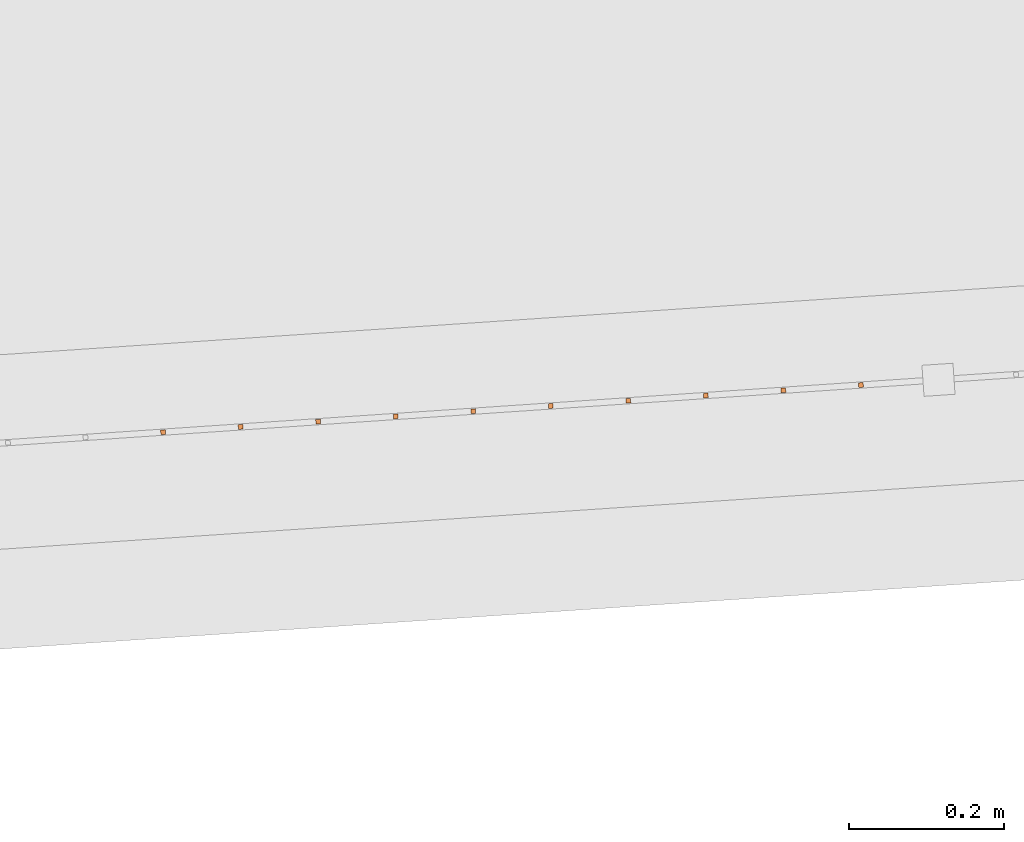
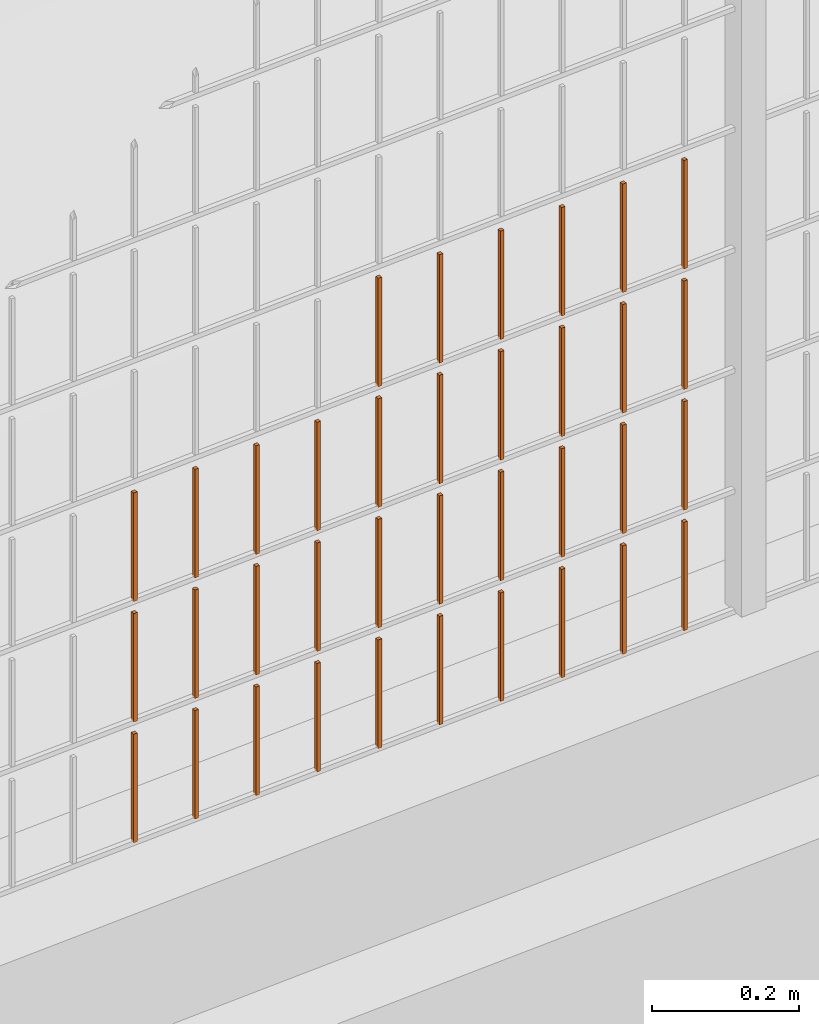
# One storey, part 151 of 1809: 36 proxies, 1 element without a shape of its own.
"""IFC2X3 building model written with IfcOpenShell, lengths in millimetres."""

import ifcopenshell
import ifcopenshell.guid

model = None  # the IFC model being written
_history = None  # IfcOwnerHistory: only IFC2X3 demands one
_inside = {}  # id of a spatial element -> (the spatial element, [elements in it])
_under = {}  # id of a project, library or spatial element -> (it, [spatial elements below it])
_declared = {}  # id of a project -> (the project, [libraries it declares])
_typed = {}  # id of a type object -> (the type object, [elements of that type])
_made_of = {}  # id of a material, layer set ... -> (it, [elements and type objects made of it])


def new_model(schema):
    """Start an empty IFC model of exactly this schema.

    Asked for "IFC4X3", IfcOpenShell would pick the latest addendum, in which some entities
    have other attributes; the version numbers below select the first issue.
    IFC2X3 requires an IfcOwnerHistory on every rooted entity: one is made here for all.
    """
    global model, _history
    if schema == "IFC4X3":
        model = ifcopenshell.file(schema_version=(4, 3, 0, 0))
    else:
        model = ifcopenshell.file(schema=schema)
    _inside.clear()
    _under.clear()
    _declared.clear()
    _typed.clear()
    _made_of.clear()
    _history = None
    if model.schema == "IFC2X3":
        org = make("IfcOrganization", Name="unknown")
        user = make(
            "IfcPersonAndOrganization",
            ThePerson=make("IfcPerson", FamilyName="unknown"),
            TheOrganization=org,
        )
        app = make(
            "IfcApplication",
            ApplicationDeveloper=org,
            Version="unknown",
            ApplicationFullName="unknown",
            ApplicationIdentifier="unknown",
        )
        _history = make(
            "IfcOwnerHistory",
            OwningUser=user,
            OwningApplication=app,
            ChangeAction="ADDED",
            CreationDate=0,
        )
    return model


def make(cls, **values):
    """One entity of the class cls with the attributes given. An attribute that is None is left unset."""
    return model.create_entity(
        cls, **{name: value for name, value in values.items() if value is not None}
    )


def entity(cls, *values):
    """Any entity or typed value of the class cls, its attributes in the order of the schema. None: left unset."""
    e = model.create_entity(cls)
    for i, value in enumerate(values):
        if value is not None:
            e[i] = value
    return e


def rooted(cls, **values):
    """An entity with a GlobalId (a new one), such as an element, a storey or a relation."""
    return make(cls, GlobalId=ifcopenshell.guid.new(), OwnerHistory=_history, **values)


def si_unit(unit_type, name, prefix=None):
    """IfcSIUnit, for example si_unit("LENGTHUNIT", "METRE", prefix="MILLI")."""
    return make("IfcSIUnit", UnitType=unit_type, Prefix=prefix, Name=name)


def converted_unit(unit_type, name, factor, base, dimensions=None, offset=None):
    """IfcConversionBasedUnit, such as the inch: factor (a typed value) times the base unit."""
    return make(
        "IfcConversionBasedUnit"
        if offset is None
        else "IfcConversionBasedUnitWithOffset",
        ConversionOffset=offset,
        Dimensions=None
        if dimensions is None
        else entity("IfcDimensionalExponents", *dimensions),
        UnitType=unit_type,
        Name=name,
        ConversionFactor=make(
            "IfcMeasureWithUnit", ValueComponent=factor, UnitComponent=base
        ),
    )


def derived_unit(unit_type, elements):
    """IfcDerivedUnit: a product of units, each with its exponent."""
    return make(
        "IfcDerivedUnit",
        Elements=[
            make("IfcDerivedUnitElement", Unit=unit, Exponent=power)
            for unit, power in elements
        ],
        UnitType=unit_type,
    )


def money_unit(currency):
    """IfcMonetaryUnit."""
    return make("IfcMonetaryUnit", Currency=currency)


def assignment(units):
    """IfcUnitAssignment: the units of a project."""
    return None if units is None else make("IfcUnitAssignment", Units=units)


def point(xyz):
    """IfcCartesianPoint."""
    return None if xyz is None else make("IfcCartesianPoint", Coordinates=xyz)


def direction(xyz):
    """IfcDirection."""
    return None if xyz is None else make("IfcDirection", DirectionRatios=xyz)


def frame(location, z_axis=None, x_axis=None):
    """IfcAxis2Placement3D, a coordinate frame: its origin and axes. An axis left out is left unset."""
    return make(
        "IfcAxis2Placement3D",
        Location=point(location),
        Axis=direction(z_axis),
        RefDirection=direction(x_axis),
    )


def origin_with_axes():
    """The frame at (0, 0, 0) with the z axis (0, 0, 1) and the x axis (1, 0, 0) written out."""
    return frame((0.0, 0.0, 0.0), z_axis=(0.0, 0.0, 1.0), x_axis=(1.0, 0.0, 0.0))


def place(relative_to, where):
    """IfcLocalPlacement: puts the frame where relative to a parent placement (None: the world)."""
    return make(
        "IfcLocalPlacement", PlacementRelTo=relative_to, RelativePlacement=where
    )


def context(
    kind, dimensions, precision=None, world=None, true_north=None, identifier=None
):
    """IfcGeometricRepresentationContext, for example the 3D "Model" context."""
    return make(
        "IfcGeometricRepresentationContext",
        ContextIdentifier=identifier,
        ContextType=kind,
        CoordinateSpaceDimension=dimensions,
        Precision=precision,
        WorldCoordinateSystem=world,
        TrueNorth=true_north,
    )


def subcontext(parent, identifier, kind, view, scale=None):
    """IfcGeometricRepresentationSubContext, for example "Body" below "Model"."""
    return make(
        "IfcGeometricRepresentationSubContext",
        ContextIdentifier=identifier,
        ContextType=kind,
        ParentContext=parent,
        TargetScale=scale,
        TargetView=view,
    )


def project(units=None, contexts=None):
    """IfcProject with its units and contexts."""
    return rooted(
        "IfcProject",
        Name="project",
        RepresentationContexts=contexts,
        UnitsInContext=assignment(units),
    )


def spatial(cls, under=None, at=None, **own):
    """A site, building, storey or space (cls), placed at a placement, below another one or the project."""
    s = rooted(cls, ObjectPlacement=at, **own)
    if under is not None:
        _under.setdefault(under.id(), (under, []))[1].append(s)
    return s


def faces_of(points, faces, orient=None, outer=None):
    """IfcFace entities. A face is a list of loops; a loop is a list of indices into points, from 0.

    orient and outer hold one flag for each loop. By default every Orientation is true, the
    first loop of a face is its IfcFaceOuterBound and the others are IfcFaceBound.
    """
    made = []
    for i, loops in enumerate(faces):
        bounds = []
        for j, loop in enumerate(loops):
            is_outer = j == 0 if outer is None else outer[i][j]
            bounds.append(
                make(
                    "IfcFaceOuterBound" if is_outer else "IfcFaceBound",
                    Bound=make("IfcPolyLoop", Polygon=[points[k] for k in loop]),
                    Orientation=True if orient is None else orient[i][j],
                )
            )
        made.append(make("IfcFace", Bounds=bounds))
    return made


def faceted_brep(points, faces, orient=None, outer=None, voids=None):
    """IfcFacetedBrep: a solid bounded by flat faces; with voids (closed shells), ...WithVoids."""
    shared = [point(p) for p in points]
    hull = make("IfcClosedShell", CfsFaces=faces_of(shared, faces, orient, outer))
    if voids is None:
        return make("IfcFacetedBrep", Outer=hull)
    return make(
        "IfcFacetedBrepWithVoids",
        Outer=hull,
        Voids=[
            make(cls, CfsFaces=faces_of(shared, fs, o, b)) for cls, fs, o, b in voids
        ],
    )


def shape(context_of_items, identifier, shape_type, items):
    """IfcShapeRepresentation: the items that make up one representation, for example the "Body"."""
    return make(
        "IfcShapeRepresentation",
        ContextOfItems=context_of_items,
        RepresentationIdentifier=identifier,
        RepresentationType=shape_type,
        Items=items,
    )


def source(mapping_origin, context_of_items, identifier, shape_type, items):
    """IfcRepresentationMap: a shape defined once, which mapped items show again and again."""
    return make(
        "IfcRepresentationMap",
        MappingOrigin=mapping_origin,
        MappedRepresentation=shape(context_of_items, identifier, shape_type, items),
    )


def transform(
    local_origin,
    x_axis=None,
    y_axis=None,
    z_axis=None,
    scale=None,
    scale2=None,
    scale3=None,
    uniform=True,
):
    """IfcCartesianTransformationOperator3D, or its non-uniform kind. x_axis, y_axis, z_axis: its Axis1, 2, 3."""
    if uniform:
        return make(
            "IfcCartesianTransformationOperator3D",
            Axis1=direction(x_axis),
            Axis2=direction(y_axis),
            LocalOrigin=point(local_origin),
            Scale=scale,
            Axis3=direction(z_axis),
        )
    return make(
        "IfcCartesianTransformationOperator3DnonUniform",
        Axis1=direction(x_axis),
        Axis2=direction(y_axis),
        LocalOrigin=point(local_origin),
        Scale=scale,
        Axis3=direction(z_axis),
        Scale2=scale2,
        Scale3=scale3,
    )


def mapped(mapping_source, mapping_target):
    """IfcMappedItem: shows the shape of a source again, moved by a transform."""
    return make(
        "IfcMappedItem", MappingSource=mapping_source, MappingTarget=mapping_target
    )


def material(Name=None, Category=None):
    """IfcMaterial."""
    return make("IfcMaterial", Name=Name, Category=Category)


def made_of(thing, what):
    """Note that an element or type object is made of a material, layer set ...; save() writes the relation."""
    if what is not None:
        _made_of.setdefault(what.id(), (what, []))[1].append(thing)
    return thing


def type_object(cls, material=None, **own):
    """A type object (cls), such as IfcWallType, which elements share."""
    return made_of(rooted(cls, **own), material)


def element(
    cls,
    number,
    at=None,
    inside=None,
    cuts=None,
    type_object=None,
    material=None,
    context=None,
    identifier="Body",
    shape_type=None,
    held_by="IfcProductDefinitionShape",
    body=None,
    shapes=None,
    **own,
):
    """One element of the class cls, such as IfcWall. Its Tag is "e" and its number.

    at: its placement. inside: the storey or other place that contains it. cuts: it is an
    opening in that element (IfcRelVoidsElement). A single representation is given by context,
    identifier, shape_type and body (its items); several are given by shapes. held_by: the class
    of the entity that holds the representations. save() writes the other relations.
    """
    e = rooted(cls, Tag="e%d" % number, ObjectPlacement=at, **own)
    if body is not None:
        shapes = [shape(context, identifier, shape_type, body)]
    if shapes is not None:
        e.Representation = make(held_by, Representations=shapes)
    if inside is not None:
        _inside.setdefault(inside.id(), (inside, []))[1].append(e)
    if cuts is not None:
        rooted(
            "IfcRelVoidsElement", RelatingBuildingElement=cuts, RelatedOpeningElement=e
        )
    if type_object is not None:
        _typed.setdefault(type_object.id(), (type_object, []))[1].append(e)
    return made_of(e, material)


def aggregate(whole, parts):
    """IfcRelAggregates: a whole, such as a stair, and the parts it consists of."""
    return rooted("IfcRelAggregates", RelatingObject=whole, RelatedObjects=parts)


def save(model, path):
    """Write the relations noted so far, then the file.

    IfcRelAggregates (storeys below a building ...), IfcRelContainedInSpatialStructure (elements
    in a storey), IfcRelDefinesByType, IfcRelAssociatesMaterial and IfcRelDeclares: one each for
    every whole, place, type object, material and project.
    """
    for whole, parts in _under.values():
        aggregate(whole, parts)
    for where, things in _inside.values():
        rooted(
            "IfcRelContainedInSpatialStructure",
            RelatedElements=things,
            RelatingStructure=where,
        )
    for kind, things in _typed.values():
        rooted("IfcRelDefinesByType", RelatedObjects=things, RelatingType=kind)
    for what, things in _made_of.values():
        rooted("IfcRelAssociatesMaterial", RelatedObjects=things, RelatingMaterial=what)
    for by, libraries in _declared.values():
        rooted("IfcRelDeclares", RelatingContext=by, RelatedDefinitions=libraries)
    model.write(path)


model = new_model("IFC2X3")

# Units and contexts
model_context = context("Model", 3, precision=0.01, world=origin_with_axes(), true_north=direction((0.0, 1.0)))
body_context = subcontext(model_context, "Body", "Model", "MODEL_VIEW")
ifc_project = project(units=[si_unit("LENGTHUNIT", "METRE", prefix="MILLI"), si_unit("AREAUNIT", "SQUARE_METRE"), si_unit("VOLUMEUNIT", "CUBIC_METRE"), converted_unit("PLANEANGLEUNIT", "DEGREE", entity("IfcPlaneAngleMeasure", 0.0174532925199), si_unit("PLANEANGLEUNIT", "RADIAN"), dimensions=[0, 0, 0, 0, 0, 0, 0]), si_unit("SOLIDANGLEUNIT", "STERADIAN"), money_unit("EUR"), converted_unit("TIMEUNIT", "Year", entity("IfcTimeMeasure", 31556926.0), si_unit("TIMEUNIT", "SECOND"), dimensions=[0, 0, 1, 0, 0, 0, 0]), si_unit("MASSUNIT", "GRAM", prefix="KILO"), si_unit("THERMODYNAMICTEMPERATUREUNIT", "DEGREE_CELSIUS"), si_unit("LUMINOUSINTENSITYUNIT", "LUMEN"), si_unit("ENERGYUNIT", "JOULE", prefix="MEGA"), derived_unit("THERMALCONDUCTANCEUNIT", [(si_unit("POWERUNIT", "WATT"), 1), (si_unit("LENGTHUNIT", "METRE"), -1), (si_unit("THERMODYNAMICTEMPERATUREUNIT", "KELVIN"), -1)]), derived_unit("SPECIFICHEATCAPACITYUNIT", [(si_unit("ENERGYUNIT", "JOULE"), 1), (si_unit("MASSUNIT", "GRAM", prefix="KILO"), -1), (si_unit("THERMODYNAMICTEMPERATUREUNIT", "KELVIN"), -1)]), derived_unit("MASSDENSITYUNIT", [(si_unit("MASSUNIT", "GRAM", prefix="KILO"), 1), (si_unit("VOLUMEUNIT", "CUBIC_METRE"), -1)])], contexts=[model_context])

# Site, building, storey
site_placement = place(None, origin_with_axes())
site = spatial("IfcSite", under=ifc_project, at=site_placement, Name="Politse- ja Piirivalveameti ning Päästeameti ühishoone", CompositionType="ELEMENT")
building_placement = place(site_placement, origin_with_axes())
building = spatial("IfcBuilding", under=site, at=building_placement, Name="Politse- ja Piirivalveameti ning Päästeameti ühishoone", CompositionType="ELEMENT")
storey_placement = place(building_placement, origin_with_axes())
storey = spatial("IfcBuildingStorey", under=building, at=storey_placement, Name="Esimene korrus", CompositionType="ELEMENT", Elevation=0.0)

# Proxies
building_element_proxy_type_1 = type_object("IfcBuildingElementProxyType", Name="Railing Type", PredefinedType="NOTDEFINED")
proxy_1_placement = place(storey_placement, frame((89252.001212, -29183.4766571, 203.661247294), z_axis=(0.0, 0.0, 1.0), x_axis=(1.0, 0.0, 0.0)))
proxy_1 = element("IfcBuildingElementProxy", 1, at=proxy_1_placement, inside=storey, type_object=building_element_proxy_type_1, Name="PIIRDEAED")
ifc_material = material(Name="ET-03_Raud")
building_element_proxy_type_2 = type_object("IfcBuildingElementProxyType", Name="IfcBuildingElementProxy", PredefinedType="NOTDEFINED")
shared_shape_1 = source(origin_with_axes(), body_context, "Body", "Brep", [
    faceted_brep([(3.0, 3.0, -0.000752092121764), (-3.0, 3.0, -0.000752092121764), (-3.0, 3.0, 179.99926046), (3.0, 3.0, 179.99926046), (3.0, -3.0, 0.000752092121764), (-3.0, -3.0, 0.000752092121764), (-3.0, -3.0, 180.000764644), (3.0, -3.0, 180.000764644)], [[[0, 1, 2, 3]], [[0, 4, 5, 1]], [[1, 5, 6, 2]], [[3, 2, 6, 7]], [[4, 0, 3, 7]], [[5, 4, 7, 6]]]),
])
proxy_2_placement = place(proxy_1_placement, frame((-82538.6113455, -22872.9464685, 206.495022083), z_axis=(0.0, 0.0, 1.0), x_axis=(1.0, 0.0, 0.0)))
proxy_2 = element("IfcBuildingElementProxy", 2, at=proxy_2_placement, type_object=building_element_proxy_type_2, material=ifc_material, Name="BALUSTER - 001", context=body_context, shape_type="MappedRepresentation", body=[
    mapped(shared_shape_1, transform((0.0, 0.0, 0.0), x_axis=(-0.0673926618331, 0.997726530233, 0.0), y_axis=(-0.997726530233, -0.0673926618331, 0.0), z_axis=(0.0, 0.0, 1.0))),
])
proxy_3_placement = place(proxy_1_placement, frame((-82438.8386924, -22866.2072023, 406.520091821), z_axis=(0.0, 0.0, 1.0), x_axis=(1.0, 0.0, 0.0)))
proxy_3 = element("IfcBuildingElementProxy", 3, at=proxy_3_placement, type_object=building_element_proxy_type_2, material=ifc_material, Name="BALUSTER - 001", context=body_context, shape_type="MappedRepresentation", body=[
    mapped(shared_shape_1, transform((0.0, 0.0, 0.0), x_axis=(-0.0673926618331, 0.997726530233, 0.0), y_axis=(-0.997726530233, -0.0673926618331, 0.0), z_axis=(0.0, 0.0, 1.0))),
])
proxy_4_placement = place(proxy_1_placement, frame((-82538.6113455, -22872.9464685, 606.495022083), z_axis=(0.0, 0.0, 1.0), x_axis=(1.0, 0.0, 0.0)))
proxy_4 = element("IfcBuildingElementProxy", 4, at=proxy_4_placement, type_object=building_element_proxy_type_2, material=ifc_material, Name="BALUSTER - 001", context=body_context, shape_type="MappedRepresentation", body=[
    mapped(shared_shape_1, transform((0.0, 0.0, 0.0), x_axis=(-0.0673926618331, 0.997726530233, 0.0), y_axis=(-0.997726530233, -0.0673926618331, 0.0), z_axis=(0.0, 0.0, 1.0))),
])
shared_shape_2 = source(origin_with_axes(), body_context, "Body", "Brep", [
    faceted_brep([(3.0, 3.0, -0.000752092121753), (-3.0, 3.0, -0.000752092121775), (-3.0, 3.0, 179.99926046), (3.0, 3.0, 179.99926046), (3.0, -3.0, 0.000752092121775), (-3.0, -3.0, 0.000752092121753), (-3.0, -3.0, 180.000764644), (3.0, -3.0, 180.000764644)], [[[0, 1, 2, 3]], [[0, 4, 5, 1]], [[1, 5, 6, 2]], [[3, 2, 6, 7]], [[4, 0, 3, 7]], [[5, 4, 7, 6]]]),
])
proxy_5_placement = place(proxy_1_placement, frame((-82937.7019576, -22899.9035332, 6.39474313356), z_axis=(0.0, 0.0, 1.0), x_axis=(1.0, 0.0, 0.0)))
proxy_5 = element("IfcBuildingElementProxy", 5, at=proxy_5_placement, type_object=building_element_proxy_type_2, material=ifc_material, Name="BALUSTER - 001", context=body_context, shape_type="MappedRepresentation", body=[
    mapped(shared_shape_2, transform((0.0, 0.0, 0.0), x_axis=(-0.0673926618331, 0.997726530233, 0.0), y_axis=(-0.997726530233, -0.0673926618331, 0.0), z_axis=(0.0, 0.0, 1.0))),
])
proxy_6_placement = place(proxy_1_placement, frame((-83037.4746106, -22906.6427994, 6.36967339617), z_axis=(0.0, 0.0, 1.0), x_axis=(1.0, 0.0, 0.0)))
proxy_6 = element("IfcBuildingElementProxy", 6, at=proxy_6_placement, type_object=building_element_proxy_type_2, material=ifc_material, Name="BALUSTER - 001", context=body_context, shape_type="MappedRepresentation", body=[
    mapped(shared_shape_2, transform((0.0, 0.0, 0.0), x_axis=(-0.0673926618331, 0.997726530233, 0.0), y_axis=(-0.997726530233, -0.0673926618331, 0.0), z_axis=(0.0, 0.0, 1.0))),
])
shared_shape_3 = source(origin_with_axes(), body_context, "Body", "Brep", [
    faceted_brep([(3.0, 3.0, -0.000752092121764), (-3.0, 3.0, -0.000752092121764), (-3.0, 3.0, 179.99926046), (3.0, 3.0, 179.99926046), (3.0, -3.0, 0.000752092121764), (-3.0, -3.0, 0.000752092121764), (-3.0, -3.0, 180.000764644), (3.0, -3.0, 180.000764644)], [[[0, 1, 2, 3]], [[0, 4, 5, 1]], [[1, 5, 6, 2]], [[3, 2, 6, 7]], [[4, 0, 3, 7]], [[5, 4, 7, 6]]]),
])
proxy_7_placement = place(proxy_1_placement, frame((-83137.2472636, -22913.3820656, 6.34460365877), z_axis=(0.0, 0.0, 1.0), x_axis=(1.0, 0.0, 0.0)))
proxy_7 = element("IfcBuildingElementProxy", 7, at=proxy_7_placement, type_object=building_element_proxy_type_2, material=ifc_material, Name="BALUSTER - 001", context=body_context, shape_type="MappedRepresentation", body=[
    mapped(shared_shape_3, transform((0.0, 0.0, 0.0), x_axis=(-0.0673926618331, 0.997726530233, 0.0), y_axis=(-0.997726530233, -0.0673926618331, 0.0), z_axis=(0.0, 0.0, 1.0))),
])
shared_shape_4 = source(origin_with_axes(), body_context, "Body", "Brep", [
    faceted_brep([(3.0, 3.0, -0.000752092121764), (-3.0, 3.0, -0.000752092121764), (-3.0, 3.0, 179.99926046), (3.0, 3.0, 179.99926046), (3.0, -3.0, 0.000752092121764), (-3.0, -3.0, 0.000752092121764), (-3.0, -3.0, 180.000764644), (3.0, -3.0, 180.000764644)], [[[0, 1, 2, 3]], [[0, 4, 5, 1]], [[1, 5, 6, 2]], [[3, 2, 6, 7]], [[4, 0, 3, 7]], [[5, 4, 7, 6]]]),
])
proxy_8_placement = place(proxy_1_placement, frame((-82638.3839985, -22879.6857347, 6.46995234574), z_axis=(0.0, 0.0, 1.0), x_axis=(1.0, 0.0, 0.0)))
proxy_8 = element("IfcBuildingElementProxy", 8, at=proxy_8_placement, type_object=building_element_proxy_type_2, material=ifc_material, Name="BALUSTER - 001", context=body_context, shape_type="MappedRepresentation", body=[
    mapped(shared_shape_4, transform((0.0, 0.0, 0.0), x_axis=(-0.0673926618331, 0.997726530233, 0.0), y_axis=(-0.997726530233, -0.0673926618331, 0.0), z_axis=(0.0, 0.0, 1.0))),
])
shared_shape_5 = source(origin_with_axes(), body_context, "Body", "Brep", [
    faceted_brep([(3.0, 3.0, -0.000752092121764), (-3.0, 3.0, -0.000752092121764), (-3.0, 3.0, 179.99926046), (3.0, 3.0, 179.99926046), (3.0, -3.0, 0.000752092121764), (-3.0, -3.0, 0.000752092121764), (-3.0, -3.0, 180.000764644), (3.0, -3.0, 180.000764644)], [[[0, 1, 2, 3]], [[0, 4, 5, 1]], [[1, 5, 6, 2]], [[3, 2, 6, 7]], [[4, 0, 3, 7]], [[5, 4, 7, 6]]]),
])
proxy_9_placement = place(proxy_1_placement, frame((-83137.2472636, -22913.3820656, 206.344603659), z_axis=(0.0, 0.0, 1.0), x_axis=(1.0, 0.0, 0.0)))
proxy_9 = element("IfcBuildingElementProxy", 9, at=proxy_9_placement, type_object=building_element_proxy_type_2, material=ifc_material, Name="BALUSTER - 001", context=body_context, shape_type="MappedRepresentation", body=[
    mapped(shared_shape_5, transform((0.0, 0.0, 0.0), x_axis=(-0.0673926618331, 0.997726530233, 0.0), y_axis=(-0.997726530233, -0.0673926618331, 0.0), z_axis=(0.0, 0.0, 1.0))),
])
proxy_10_placement = place(proxy_1_placement, frame((-83137.2472636, -22913.3820656, 406.344603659), z_axis=(0.0, 0.0, 1.0), x_axis=(1.0, 0.0, 0.0)))
proxy_10 = element("IfcBuildingElementProxy", 10, at=proxy_10_placement, type_object=building_element_proxy_type_2, material=ifc_material, Name="BALUSTER - 001", context=body_context, shape_type="MappedRepresentation", body=[
    mapped(shared_shape_5, transform((0.0, 0.0, 0.0), x_axis=(-0.0673926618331, 0.997726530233, 0.0), y_axis=(-0.997726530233, -0.0673926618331, 0.0), z_axis=(0.0, 0.0, 1.0))),
])
shared_shape_6 = source(origin_with_axes(), body_context, "Body", "Brep", [
    faceted_brep([(3.0, 3.0, -0.000752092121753), (-3.0, 3.0, -0.000752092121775), (-3.0, 3.0, 179.99926046), (3.0, 3.0, 179.99926046), (3.0, -3.0, 0.000752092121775), (-3.0, -3.0, 0.000752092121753), (-3.0, -3.0, 180.000764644), (3.0, -3.0, 180.000764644)], [[[0, 1, 2, 3]], [[0, 4, 5, 1]], [[1, 5, 6, 2]], [[3, 2, 6, 7]], [[4, 0, 3, 7]], [[5, 4, 7, 6]]]),
])
proxy_11_placement = place(proxy_1_placement, frame((-83037.4746106, -22906.6427994, 206.369673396), z_axis=(0.0, 0.0, 1.0), x_axis=(1.0, 0.0, 0.0)))
proxy_11 = element("IfcBuildingElementProxy", 11, at=proxy_11_placement, type_object=building_element_proxy_type_2, material=ifc_material, Name="BALUSTER - 001", context=body_context, shape_type="MappedRepresentation", body=[
    mapped(shared_shape_6, transform((0.0, 0.0, 0.0), x_axis=(-0.0673926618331, 0.997726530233, 0.0), y_axis=(-0.997726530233, -0.0673926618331, 0.0), z_axis=(0.0, 0.0, 1.0))),
])
shared_shape_7 = source(origin_with_axes(), body_context, "Body", "Brep", [
    faceted_brep([(3.0, 3.0, -0.000752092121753), (-3.0, 3.0, -0.000752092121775), (-3.0, 3.0, 179.99926046), (3.0, 3.0, 179.99926046), (3.0, -3.0, 0.000752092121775), (-3.0, -3.0, 0.000752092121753), (-3.0, -3.0, 180.000764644), (3.0, -3.0, 180.000764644)], [[[0, 1, 2, 3]], [[0, 4, 5, 1]], [[1, 5, 6, 2]], [[3, 2, 6, 7]], [[4, 0, 3, 7]], [[5, 4, 7, 6]]]),
])
proxy_12_placement = place(proxy_1_placement, frame((-82239.2933864, -22852.72867, 6.5702312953), z_axis=(0.0, 0.0, 1.0), x_axis=(1.0, 0.0, 0.0)))
proxy_12 = element("IfcBuildingElementProxy", 12, at=proxy_12_placement, type_object=building_element_proxy_type_2, material=ifc_material, Name="BALUSTER - 001", context=body_context, shape_type="MappedRepresentation", body=[
    mapped(shared_shape_7, transform((0.0, 0.0, 0.0), x_axis=(-0.0673926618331, 0.997726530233, 0.0), y_axis=(-0.997726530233, -0.0673926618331, 0.0), z_axis=(0.0, 0.0, 1.0))),
])
proxy_13_placement = place(proxy_1_placement, frame((-82837.9293045, -22893.1642671, 6.41981287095), z_axis=(0.0, 0.0, 1.0), x_axis=(1.0, 0.0, 0.0)))
proxy_13 = element("IfcBuildingElementProxy", 13, at=proxy_13_placement, type_object=building_element_proxy_type_2, material=ifc_material, Name="BALUSTER - 001", context=body_context, shape_type="MappedRepresentation", body=[
    mapped(shared_shape_7, transform((0.0, 0.0, 0.0), x_axis=(-0.0673926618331, 0.997726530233, 0.0), y_axis=(-0.997726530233, -0.0673926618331, 0.0), z_axis=(0.0, 0.0, 1.0))),
])
shared_shape_8 = source(origin_with_axes(), body_context, "Body", "Brep", [
    faceted_brep([(3.0, 3.0, -0.000752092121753), (-3.0, 3.0, -0.000752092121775), (-3.0, 3.0, 179.99926046), (3.0, 3.0, 179.99926046), (3.0, -3.0, 0.000752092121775), (-3.0, -3.0, 0.000752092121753), (-3.0, -3.0, 180.000764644), (3.0, -3.0, 180.000764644)], [[[0, 1, 2, 3]], [[0, 4, 5, 1]], [[1, 5, 6, 2]], [[3, 2, 6, 7]], [[4, 0, 3, 7]], [[5, 4, 7, 6]]]),
])
proxy_14_placement = place(proxy_1_placement, frame((-83037.4746106, -22906.6427994, 406.369673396), z_axis=(0.0, 0.0, 1.0), x_axis=(1.0, 0.0, 0.0)))
proxy_14 = element("IfcBuildingElementProxy", 14, at=proxy_14_placement, type_object=building_element_proxy_type_2, material=ifc_material, Name="BALUSTER - 001", context=body_context, shape_type="MappedRepresentation", body=[
    mapped(shared_shape_8, transform((0.0, 0.0, 0.0), x_axis=(-0.0673926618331, 0.997726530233, 0.0), y_axis=(-0.997726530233, -0.0673926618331, 0.0), z_axis=(0.0, 0.0, 1.0))),
])
shared_shape_9 = source(origin_with_axes(), body_context, "Body", "Brep", [
    faceted_brep([(3.0, 3.0, -0.000752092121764), (-3.0, 3.0, -0.000752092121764), (-3.0, 3.0, 179.99926046), (3.0, 3.0, 179.99926046), (3.0, -3.0, 0.000752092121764), (-3.0, -3.0, 0.000752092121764), (-3.0, -3.0, 180.000764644), (3.0, -3.0, 180.000764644)], [[[0, 1, 2, 3]], [[0, 4, 5, 1]], [[1, 5, 6, 2]], [[3, 2, 6, 7]], [[4, 0, 3, 7]], [[5, 4, 7, 6]]]),
])
proxy_15_placement = place(proxy_1_placement, frame((-82538.6113455, -22872.9464685, 406.495022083), z_axis=(0.0, 0.0, 1.0), x_axis=(1.0, 0.0, 0.0)))
proxy_15 = element("IfcBuildingElementProxy", 15, at=proxy_15_placement, type_object=building_element_proxy_type_2, material=ifc_material, Name="BALUSTER - 001", context=body_context, shape_type="MappedRepresentation", body=[
    mapped(shared_shape_9, transform((0.0, 0.0, 0.0), x_axis=(-0.0673926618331, 0.997726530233, 0.0), y_axis=(-0.997726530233, -0.0673926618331, 0.0), z_axis=(0.0, 0.0, 1.0))),
])
shared_shape_10 = source(origin_with_axes(), body_context, "Body", "Brep", [
    faceted_brep([(3.0, 3.0, -0.000752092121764), (-3.0, 3.0, -0.000752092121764), (-3.0, 3.0, 179.99926046), (3.0, 3.0, 179.99926046), (3.0, -3.0, 0.000752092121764), (-3.0, -3.0, 0.000752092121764), (-3.0, -3.0, 180.000764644), (3.0, -3.0, 180.000764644)], [[[0, 1, 2, 3]], [[0, 4, 5, 1]], [[1, 5, 6, 2]], [[3, 2, 6, 7]], [[4, 0, 3, 7]], [[5, 4, 7, 6]]]),
])
proxy_16_placement = place(proxy_1_placement, frame((-82339.0660394, -22859.4679361, 6.54516155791), z_axis=(0.0, 0.0, 1.0), x_axis=(1.0, 0.0, 0.0)))
proxy_16 = element("IfcBuildingElementProxy", 16, at=proxy_16_placement, type_object=building_element_proxy_type_2, material=ifc_material, Name="BALUSTER - 001", context=body_context, shape_type="MappedRepresentation", body=[
    mapped(shared_shape_10, transform((0.0, 0.0, 0.0), x_axis=(-0.0673926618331, 0.997726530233, 0.0), y_axis=(-0.997726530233, -0.0673926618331, 0.0), z_axis=(0.0, 0.0, 1.0))),
])
shared_shape_11 = source(origin_with_axes(), body_context, "Body", "Brep", [
    faceted_brep([(3.0, 3.0, -0.000752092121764), (-3.0, 3.0, -0.000752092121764), (-3.0, 3.0, 179.99926046), (3.0, 3.0, 179.99926046), (3.0, -3.0, 0.000752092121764), (-3.0, -3.0, 0.000752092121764), (-3.0, -3.0, 180.000764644), (3.0, -3.0, 180.000764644)], [[[0, 1, 2, 3]], [[0, 4, 5, 1]], [[1, 5, 6, 2]], [[3, 2, 6, 7]], [[4, 0, 3, 7]], [[5, 4, 7, 6]]]),
])
proxy_17_placement = place(proxy_1_placement, frame((-82438.8386924, -22866.2072023, 6.52009182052), z_axis=(0.0, 0.0, 1.0), x_axis=(1.0, 0.0, 0.0)))
proxy_17 = element("IfcBuildingElementProxy", 17, at=proxy_17_placement, type_object=building_element_proxy_type_2, material=ifc_material, Name="BALUSTER - 001", context=body_context, shape_type="MappedRepresentation", body=[
    mapped(shared_shape_11, transform((0.0, 0.0, 0.0), x_axis=(-0.0673926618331, 0.997726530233, 0.0), y_axis=(-0.997726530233, -0.0673926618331, 0.0), z_axis=(0.0, 0.0, 1.0))),
])
shared_shape_12 = source(origin_with_axes(), body_context, "Body", "Brep", [
    faceted_brep([(3.0, 3.0, -0.000752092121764), (-3.0, 3.0, -0.000752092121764), (-3.0, 3.0, 179.99926046), (3.0, 3.0, 179.99926046), (3.0, -3.0, 0.000752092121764), (-3.0, -3.0, 0.000752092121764), (-3.0, -3.0, 180.000764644), (3.0, -3.0, 180.000764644)], [[[0, 1, 2, 3]], [[0, 4, 5, 1]], [[1, 5, 6, 2]], [[3, 2, 6, 7]], [[4, 0, 3, 7]], [[5, 4, 7, 6]]]),
])
proxy_18_placement = place(proxy_1_placement, frame((-82339.0660394, -22859.4679361, 206.545161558), z_axis=(0.0, 0.0, 1.0), x_axis=(1.0, 0.0, 0.0)))
proxy_18 = element("IfcBuildingElementProxy", 18, at=proxy_18_placement, type_object=building_element_proxy_type_2, material=ifc_material, Name="BALUSTER - 001", context=body_context, shape_type="MappedRepresentation", body=[
    mapped(shared_shape_12, transform((0.0, 0.0, 0.0), x_axis=(-0.0673926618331, 0.997726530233, 0.0), y_axis=(-0.997726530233, -0.0673926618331, 0.0), z_axis=(0.0, 0.0, 1.0))),
])
shared_shape_13 = source(origin_with_axes(), body_context, "Body", "Brep", [
    faceted_brep([(3.0, 3.0, -0.000752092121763), (-3.0, 3.0, -0.000752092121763), (-3.0, 3.0, 179.99926046), (3.0, 3.0, 179.99926046), (3.0, -3.0, 0.000752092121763), (-3.0, -3.0, 0.000752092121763), (-3.0, -3.0, 180.000764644), (3.0, -3.0, 180.000764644)], [[[0, 1, 2, 3]], [[0, 4, 5, 1]], [[1, 5, 6, 2]], [[3, 2, 6, 7]], [[4, 0, 3, 7]], [[5, 4, 7, 6]]]),
])
proxy_19_placement = place(proxy_1_placement, frame((-82438.8386924, -22866.2072023, 206.520091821), z_axis=(0.0, 0.0, 1.0), x_axis=(1.0, 0.0, 0.0)))
proxy_19 = element("IfcBuildingElementProxy", 19, at=proxy_19_placement, type_object=building_element_proxy_type_2, material=ifc_material, Name="BALUSTER - 001", context=body_context, shape_type="MappedRepresentation", body=[
    mapped(shared_shape_13, transform((0.0, 0.0, 0.0), x_axis=(-0.0673926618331, 0.997726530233, 0.0), y_axis=(-0.997726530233, -0.0673926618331, 0.0), z_axis=(0.0, 0.0, 1.0))),
])
shared_shape_14 = source(origin_with_axes(), body_context, "Body", "Brep", [
    faceted_brep([(3.0, 3.0, -0.000752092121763), (-3.0, 3.0, -0.000752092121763), (-3.0, 3.0, 179.99926046), (3.0, 3.0, 179.99926046), (3.0, -3.0, 0.000752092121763), (-3.0, -3.0, 0.000752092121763), (-3.0, -3.0, 180.000764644), (3.0, -3.0, 180.000764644)], [[[0, 1, 2, 3]], [[0, 4, 5, 1]], [[1, 5, 6, 2]], [[3, 2, 6, 7]], [[4, 0, 3, 7]], [[5, 4, 7, 6]]]),
])
proxy_20_placement = place(proxy_1_placement, frame((-82339.0660394, -22859.4679361, 406.545161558), z_axis=(0.0, 0.0, 1.0), x_axis=(1.0, 0.0, 0.0)))
proxy_20 = element("IfcBuildingElementProxy", 20, at=proxy_20_placement, type_object=building_element_proxy_type_2, material=ifc_material, Name="BALUSTER - 001", context=body_context, shape_type="MappedRepresentation", body=[
    mapped(shared_shape_14, transform((0.0, 0.0, 0.0), x_axis=(-0.0673926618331, 0.997726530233, 0.0), y_axis=(-0.997726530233, -0.0673926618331, 0.0), z_axis=(0.0, 0.0, 1.0))),
])
shared_shape_15 = source(origin_with_axes(), body_context, "Body", "Brep", [
    faceted_brep([(3.0, 3.0, -0.000752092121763), (-3.0, 3.0, -0.000752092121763), (-3.0, 3.0, 179.99926046), (3.0, 3.0, 179.99926046), (3.0, -3.0, 0.000752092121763), (-3.0, -3.0, 0.000752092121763), (-3.0, -3.0, 180.000764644), (3.0, -3.0, 180.000764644)], [[[0, 1, 2, 3]], [[0, 4, 5, 1]], [[1, 5, 6, 2]], [[3, 2, 6, 7]], [[4, 0, 3, 7]], [[5, 4, 7, 6]]]),
])
proxy_21_placement = place(proxy_1_placement, frame((-82638.3839985, -22879.6857347, 406.469952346), z_axis=(0.0, 0.0, 1.0), x_axis=(1.0, 0.0, 0.0)))
proxy_21 = element("IfcBuildingElementProxy", 21, at=proxy_21_placement, type_object=building_element_proxy_type_2, material=ifc_material, Name="BALUSTER - 001", context=body_context, shape_type="MappedRepresentation", body=[
    mapped(shared_shape_15, transform((0.0, 0.0, 0.0), x_axis=(-0.0673926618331, 0.997726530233, 0.0), y_axis=(-0.997726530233, -0.0673926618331, 0.0), z_axis=(0.0, 0.0, 1.0))),
])
shared_shape_16 = source(origin_with_axes(), body_context, "Body", "Brep", [
    faceted_brep([(3.0, 3.0, -0.000752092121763), (-3.0, 3.0, -0.000752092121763), (-3.0, 3.0, 179.99926046), (3.0, 3.0, 179.99926046), (3.0, -3.0, 0.000752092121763), (-3.0, -3.0, 0.000752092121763), (-3.0, -3.0, 180.000764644), (3.0, -3.0, 180.000764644)], [[[0, 1, 2, 3]], [[0, 4, 5, 1]], [[1, 5, 6, 2]], [[3, 2, 6, 7]], [[4, 0, 3, 7]], [[5, 4, 7, 6]]]),
])
proxy_22_placement = place(proxy_1_placement, frame((-82339.0660394, -22859.4679361, 606.545161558), z_axis=(0.0, 0.0, 1.0), x_axis=(1.0, 0.0, 0.0)))
proxy_22 = element("IfcBuildingElementProxy", 22, at=proxy_22_placement, type_object=building_element_proxy_type_2, material=ifc_material, Name="BALUSTER - 001", context=body_context, shape_type="MappedRepresentation", body=[
    mapped(shared_shape_16, transform((0.0, 0.0, 0.0), x_axis=(-0.0673926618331, 0.997726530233, 0.0), y_axis=(-0.997726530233, -0.0673926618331, 0.0), z_axis=(0.0, 0.0, 1.0))),
])
shared_shape_17 = source(origin_with_axes(), body_context, "Body", "Brep", [
    faceted_brep([(3.0, 3.0, -0.000752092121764), (-3.0, 3.0, -0.000752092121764), (-3.0, 3.0, 179.99926046), (3.0, 3.0, 179.99926046), (3.0, -3.0, 0.000752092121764), (-3.0, -3.0, 0.000752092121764), (-3.0, -3.0, 180.000764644), (3.0, -3.0, 180.000764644)], [[[0, 1, 2, 3]], [[0, 4, 5, 1]], [[1, 5, 6, 2]], [[3, 2, 6, 7]], [[4, 0, 3, 7]], [[5, 4, 7, 6]]]),
])
proxy_23_placement = place(proxy_1_placement, frame((-82438.8386924, -22866.2072023, 606.520091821), z_axis=(0.0, 0.0, 1.0), x_axis=(1.0, 0.0, 0.0)))
proxy_23 = element("IfcBuildingElementProxy", 23, at=proxy_23_placement, type_object=building_element_proxy_type_2, material=ifc_material, Name="BALUSTER - 001", context=body_context, shape_type="MappedRepresentation", body=[
    mapped(shared_shape_17, transform((0.0, 0.0, 0.0), x_axis=(-0.0673926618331, 0.997726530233, 0.0), y_axis=(-0.997726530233, -0.0673926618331, 0.0), z_axis=(0.0, 0.0, 1.0))),
])
shared_shape_18 = source(origin_with_axes(), body_context, "Body", "Brep", [
    faceted_brep([(3.0, 3.0, -0.000752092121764), (-3.0, 3.0, -0.000752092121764), (-3.0, 3.0, 179.99926046), (3.0, 3.0, 179.99926046), (3.0, -3.0, 0.000752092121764), (-3.0, -3.0, 0.000752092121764), (-3.0, -3.0, 180.000764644), (3.0, -3.0, 180.000764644)], [[[0, 1, 2, 3]], [[0, 4, 5, 1]], [[1, 5, 6, 2]], [[3, 2, 6, 7]], [[4, 0, 3, 7]], [[5, 4, 7, 6]]]),
])
proxy_24_placement = place(proxy_1_placement, frame((-82538.6113455, -22872.9464685, 6.49502208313), z_axis=(0.0, 0.0, 1.0), x_axis=(1.0, 0.0, 0.0)))
proxy_24 = element("IfcBuildingElementProxy", 24, at=proxy_24_placement, type_object=building_element_proxy_type_2, material=ifc_material, Name="BALUSTER - 001", context=body_context, shape_type="MappedRepresentation", body=[
    mapped(shared_shape_18, transform((0.0, 0.0, 0.0), x_axis=(-0.0673926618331, 0.997726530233, 0.0), y_axis=(-0.997726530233, -0.0673926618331, 0.0), z_axis=(0.0, 0.0, 1.0))),
])
shared_shape_19 = source(origin_with_axes(), body_context, "Body", "Brep", [
    faceted_brep([(3.0, 3.0, -0.000752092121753), (-3.0, 3.0, -0.000752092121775), (-3.0, 3.0, 179.99926046), (3.0, 3.0, 179.99926046), (3.0, -3.0, 0.000752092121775), (-3.0, -3.0, 0.000752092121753), (-3.0, -3.0, 180.000764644), (3.0, -3.0, 180.000764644)], [[[0, 1, 2, 3]], [[0, 4, 5, 1]], [[1, 5, 6, 2]], [[3, 2, 6, 7]], [[4, 0, 3, 7]], [[5, 4, 7, 6]]]),
])
proxy_25_placement = place(proxy_1_placement, frame((-82738.1566515, -22886.4250009, 6.44488260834), z_axis=(0.0, 0.0, 1.0), x_axis=(1.0, 0.0, 0.0)))
proxy_25 = element("IfcBuildingElementProxy", 25, at=proxy_25_placement, type_object=building_element_proxy_type_2, material=ifc_material, Name="BALUSTER - 001", context=body_context, shape_type="MappedRepresentation", body=[
    mapped(shared_shape_19, transform((0.0, 0.0, 0.0), x_axis=(-0.0673926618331, 0.997726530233, 0.0), y_axis=(-0.997726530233, -0.0673926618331, 0.0), z_axis=(0.0, 0.0, 1.0))),
])
shared_shape_20 = source(origin_with_axes(), body_context, "Body", "Brep", [
    faceted_brep([(3.0, 3.0, -0.000752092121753), (-3.0, 3.0, -0.000752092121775), (-3.0, 3.0, 179.99926046), (3.0, 3.0, 179.99926046), (3.0, -3.0, 0.000752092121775), (-3.0, -3.0, 0.000752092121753), (-3.0, -3.0, 180.000764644), (3.0, -3.0, 180.000764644)], [[[0, 1, 2, 3]], [[0, 4, 5, 1]], [[1, 5, 6, 2]], [[3, 2, 6, 7]], [[4, 0, 3, 7]], [[5, 4, 7, 6]]]),
])
proxy_26_placement = place(proxy_1_placement, frame((-82239.2933864, -22852.72867, 206.570231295), z_axis=(0.0, 0.0, 1.0), x_axis=(1.0, 0.0, 0.0)))
proxy_26 = element("IfcBuildingElementProxy", 26, at=proxy_26_placement, type_object=building_element_proxy_type_2, material=ifc_material, Name="BALUSTER - 001", context=body_context, shape_type="MappedRepresentation", body=[
    mapped(shared_shape_20, transform((0.0, 0.0, 0.0), x_axis=(-0.0673926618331, 0.997726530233, 0.0), y_axis=(-0.997726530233, -0.0673926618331, 0.0), z_axis=(0.0, 0.0, 1.0))),
])
proxy_27_placement = place(proxy_1_placement, frame((-82937.7019576, -22899.9035332, 206.394743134), z_axis=(0.0, 0.0, 1.0), x_axis=(1.0, 0.0, 0.0)))
proxy_27 = element("IfcBuildingElementProxy", 27, at=proxy_27_placement, type_object=building_element_proxy_type_2, material=ifc_material, Name="BALUSTER - 001", context=body_context, shape_type="MappedRepresentation", body=[
    mapped(shared_shape_20, transform((0.0, 0.0, 0.0), x_axis=(-0.0673926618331, 0.997726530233, 0.0), y_axis=(-0.997726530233, -0.0673926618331, 0.0), z_axis=(0.0, 0.0, 1.0))),
])
shared_shape_21 = source(origin_with_axes(), body_context, "Body", "Brep", [
    faceted_brep([(3.0, 3.0, -0.000752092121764), (-3.0, 3.0, -0.000752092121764), (-3.0, 3.0, 179.99926046), (3.0, 3.0, 179.99926046), (3.0, -3.0, 0.000752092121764), (-3.0, -3.0, 0.000752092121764), (-3.0, -3.0, 180.000764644), (3.0, -3.0, 180.000764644)], [[[0, 1, 2, 3]], [[0, 4, 5, 1]], [[1, 5, 6, 2]], [[3, 2, 6, 7]], [[4, 0, 3, 7]], [[5, 4, 7, 6]]]),
])
proxy_28_placement = place(proxy_1_placement, frame((-82638.3839985, -22879.6857347, 206.469952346), z_axis=(0.0, 0.0, 1.0), x_axis=(1.0, 0.0, 0.0)))
proxy_28 = element("IfcBuildingElementProxy", 28, at=proxy_28_placement, type_object=building_element_proxy_type_2, material=ifc_material, Name="BALUSTER - 001", context=body_context, shape_type="MappedRepresentation", body=[
    mapped(shared_shape_21, transform((0.0, 0.0, 0.0), x_axis=(-0.0673926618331, 0.997726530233, 0.0), y_axis=(-0.997726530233, -0.0673926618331, 0.0), z_axis=(0.0, 0.0, 1.0))),
])
shared_shape_22 = source(origin_with_axes(), body_context, "Body", "Brep", [
    faceted_brep([(3.0, 3.0, -0.000752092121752), (-3.0, 3.0, -0.000752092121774), (-3.0, 3.0, 179.99926046), (3.0, 3.0, 179.99926046), (3.0, -3.0, 0.000752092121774), (-3.0, -3.0, 0.000752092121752), (-3.0, -3.0, 180.000764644), (3.0, -3.0, 180.000764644)], [[[0, 1, 2, 3]], [[0, 4, 5, 1]], [[1, 5, 6, 2]], [[3, 2, 6, 7]], [[4, 0, 3, 7]], [[5, 4, 7, 6]]]),
])
proxy_29_placement = place(proxy_1_placement, frame((-82738.1566515, -22886.4250009, 206.444882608), z_axis=(0.0, 0.0, 1.0), x_axis=(1.0, 0.0, 0.0)))
proxy_29 = element("IfcBuildingElementProxy", 29, at=proxy_29_placement, type_object=building_element_proxy_type_2, material=ifc_material, Name="BALUSTER - 001", context=body_context, shape_type="MappedRepresentation", body=[
    mapped(shared_shape_22, transform((0.0, 0.0, 0.0), x_axis=(-0.0673926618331, 0.997726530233, 0.0), y_axis=(-0.997726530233, -0.0673926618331, 0.0), z_axis=(0.0, 0.0, 1.0))),
])
proxy_30_placement = place(proxy_1_placement, frame((-82239.2933864, -22852.72867, 406.570231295), z_axis=(0.0, 0.0, 1.0), x_axis=(1.0, 0.0, 0.0)))
proxy_30 = element("IfcBuildingElementProxy", 30, at=proxy_30_placement, type_object=building_element_proxy_type_2, material=ifc_material, Name="BALUSTER - 001", context=body_context, shape_type="MappedRepresentation", body=[
    mapped(shared_shape_22, transform((0.0, 0.0, 0.0), x_axis=(-0.0673926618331, 0.997726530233, 0.0), y_axis=(-0.997726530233, -0.0673926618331, 0.0), z_axis=(0.0, 0.0, 1.0))),
])
proxy_31_placement = place(proxy_1_placement, frame((-82937.7019576, -22899.9035332, 406.394743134), z_axis=(0.0, 0.0, 1.0), x_axis=(1.0, 0.0, 0.0)))
proxy_31 = element("IfcBuildingElementProxy", 31, at=proxy_31_placement, type_object=building_element_proxy_type_2, material=ifc_material, Name="BALUSTER - 001", context=body_context, shape_type="MappedRepresentation", body=[
    mapped(shared_shape_22, transform((0.0, 0.0, 0.0), x_axis=(-0.0673926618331, 0.997726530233, 0.0), y_axis=(-0.997726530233, -0.0673926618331, 0.0), z_axis=(0.0, 0.0, 1.0))),
])
shared_shape_23 = source(origin_with_axes(), body_context, "Body", "Brep", [
    faceted_brep([(3.0, 3.0, -0.000752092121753), (-3.0, 3.0, -0.000752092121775), (-3.0, 3.0, 179.99926046), (3.0, 3.0, 179.99926046), (3.0, -3.0, 0.000752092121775), (-3.0, -3.0, 0.000752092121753), (-3.0, -3.0, 180.000764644), (3.0, -3.0, 180.000764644)], [[[0, 1, 2, 3]], [[0, 4, 5, 1]], [[1, 5, 6, 2]], [[3, 2, 6, 7]], [[4, 0, 3, 7]], [[5, 4, 7, 6]]]),
])
proxy_32_placement = place(proxy_1_placement, frame((-82837.9293045, -22893.1642671, 206.419812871), z_axis=(0.0, 0.0, 1.0), x_axis=(1.0, 0.0, 0.0)))
proxy_32 = element("IfcBuildingElementProxy", 32, at=proxy_32_placement, type_object=building_element_proxy_type_2, material=ifc_material, Name="BALUSTER - 001", context=body_context, shape_type="MappedRepresentation", body=[
    mapped(shared_shape_23, transform((0.0, 0.0, 0.0), x_axis=(-0.0673926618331, 0.997726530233, 0.0), y_axis=(-0.997726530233, -0.0673926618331, 0.0), z_axis=(0.0, 0.0, 1.0))),
])
shared_shape_24 = source(origin_with_axes(), body_context, "Body", "Brep", [
    faceted_brep([(3.0, 3.0, -0.000752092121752), (-3.0, 3.0, -0.000752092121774), (-3.0, 3.0, 179.99926046), (3.0, 3.0, 179.99926046), (3.0, -3.0, 0.000752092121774), (-3.0, -3.0, 0.000752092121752), (-3.0, -3.0, 180.000764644), (3.0, -3.0, 180.000764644)], [[[0, 1, 2, 3]], [[0, 4, 5, 1]], [[1, 5, 6, 2]], [[3, 2, 6, 7]], [[4, 0, 3, 7]], [[5, 4, 7, 6]]]),
])
proxy_33_placement = place(proxy_1_placement, frame((-82738.1566515, -22886.4250009, 406.444882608), z_axis=(0.0, 0.0, 1.0), x_axis=(1.0, 0.0, 0.0)))
proxy_33 = element("IfcBuildingElementProxy", 33, at=proxy_33_placement, type_object=building_element_proxy_type_2, material=ifc_material, Name="BALUSTER - 001", context=body_context, shape_type="MappedRepresentation", body=[
    mapped(shared_shape_24, transform((0.0, 0.0, 0.0), x_axis=(-0.0673926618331, 0.997726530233, 0.0), y_axis=(-0.997726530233, -0.0673926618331, 0.0), z_axis=(0.0, 0.0, 1.0))),
])
proxy_34_placement = place(proxy_1_placement, frame((-82837.9293045, -22893.1642671, 406.419812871), z_axis=(0.0, 0.0, 1.0), x_axis=(1.0, 0.0, 0.0)))
proxy_34 = element("IfcBuildingElementProxy", 34, at=proxy_34_placement, type_object=building_element_proxy_type_2, material=ifc_material, Name="BALUSTER - 001", context=body_context, shape_type="MappedRepresentation", body=[
    mapped(shared_shape_24, transform((0.0, 0.0, 0.0), x_axis=(-0.0673926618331, 0.997726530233, 0.0), y_axis=(-0.997726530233, -0.0673926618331, 0.0), z_axis=(0.0, 0.0, 1.0))),
])
proxy_35_placement = place(proxy_1_placement, frame((-82239.2933864, -22852.72867, 606.570231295), z_axis=(0.0, 0.0, 1.0), x_axis=(1.0, 0.0, 0.0)))
proxy_35 = element("IfcBuildingElementProxy", 35, at=proxy_35_placement, type_object=building_element_proxy_type_2, material=ifc_material, Name="BALUSTER - 001", context=body_context, shape_type="MappedRepresentation", body=[
    mapped(shared_shape_24, transform((0.0, 0.0, 0.0), x_axis=(-0.0673926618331, 0.997726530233, 0.0), y_axis=(-0.997726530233, -0.0673926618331, 0.0), z_axis=(0.0, 0.0, 1.0))),
])
proxy_36_placement = place(proxy_1_placement, frame((-82738.1566515, -22886.4250009, 606.444882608), z_axis=(0.0, 0.0, 1.0), x_axis=(1.0, 0.0, 0.0)))
proxy_36 = element("IfcBuildingElementProxy", 36, at=proxy_36_placement, type_object=building_element_proxy_type_2, material=ifc_material, Name="BALUSTER - 001", context=body_context, shape_type="MappedRepresentation", body=[
    mapped(shared_shape_24, transform((0.0, 0.0, 0.0), x_axis=(-0.0673926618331, 0.997726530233, 0.0), y_axis=(-0.997726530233, -0.0673926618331, 0.0), z_axis=(0.0, 0.0, 1.0))),
])
shared_shape_25 = source(origin_with_axes(), body_context, "Body", "Brep", [
    faceted_brep([(3.0, 3.0, -0.000752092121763), (-3.0, 3.0, -0.000752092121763), (-3.0, 3.0, 179.99926046), (3.0, 3.0, 179.99926046), (3.0, -3.0, 0.000752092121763), (-3.0, -3.0, 0.000752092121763), (-3.0, -3.0, 180.000764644), (3.0, -3.0, 180.000764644)], [[[0, 1, 2, 3]], [[0, 4, 5, 1]], [[1, 5, 6, 2]], [[3, 2, 6, 7]], [[4, 0, 3, 7]], [[5, 4, 7, 6]]]),
])
proxy_37_placement = place(proxy_1_placement, frame((-82638.3839985, -22879.6857347, 606.469952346), z_axis=(0.0, 0.0, 1.0), x_axis=(1.0, 0.0, 0.0)))
proxy_37 = element("IfcBuildingElementProxy", 37, at=proxy_37_placement, type_object=building_element_proxy_type_2, material=ifc_material, Name="BALUSTER - 001", context=body_context, shape_type="MappedRepresentation", body=[
    mapped(shared_shape_25, transform((0.0, 0.0, 0.0), x_axis=(-0.0673926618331, 0.997726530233, 0.0), y_axis=(-0.997726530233, -0.0673926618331, 0.0), z_axis=(0.0, 0.0, 1.0))),
])
aggregate(proxy_1, [proxy_12, proxy_16, proxy_17, proxy_24, proxy_8, proxy_25, proxy_13, proxy_5, proxy_6, proxy_7, proxy_26, proxy_18, proxy_19, proxy_2, proxy_28, proxy_29, proxy_32, proxy_27, proxy_11, proxy_9, proxy_30, proxy_20, proxy_3, proxy_15, proxy_21, proxy_33, proxy_34, proxy_31, proxy_14, proxy_10, proxy_35, proxy_22, proxy_23, proxy_4, proxy_37, proxy_36])

save(model, "model.ifc")
